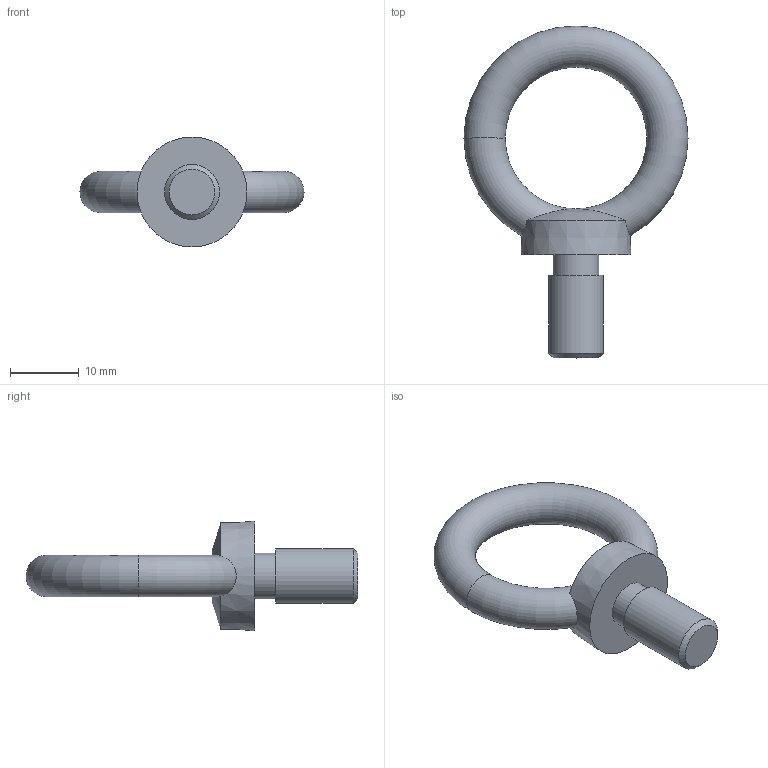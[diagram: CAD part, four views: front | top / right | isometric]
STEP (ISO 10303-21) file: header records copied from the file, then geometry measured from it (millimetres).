
FILE_DESCRIPTION(/* description */ (''),/* implementation_level */ '2;1');
FILE_NAME(/* name */ 'C:\Users\D\Documents\Inventor\各種小物\JIS\アイボルト\M8.stp',/* time_stamp */ '2022-04-27T11:43:29+09:00',/* author */ ('D'),/* organization */ (''),/* preprocessor_version */ 'ST-DEVELOPER v18',/* originating_system */ 'Autodesk Inventor 2020',/* authorisation */ '');
FILE_SCHEMA (('AUTOMOTIVE_DESIGN { 1 0 10303 214 3 1 1 }'));
Length unit declared in the file: millimetre
Products named in the file (1): M8
Bounding box: 32.6 x 48.3 x 16 mm (x, y, z)
Volume: 3844.3 mm3; surface area: 2311.9 mm2
Topology: 1 solids, 1 shells, 11 faces, 27 edges, 18 vertices
Faces by surface type: plane 3, cone 2, cylinder 2, sphere 2, torus 2
Full cylindrical faces by diameter (mm): 6.65 x1, 8 x1
Entity records: 457 total; most frequent: CARTESIAN_POINT 146, DIRECTION 60, ORIENTED_EDGE 54, AXIS2_PLACEMENT_3D 28, EDGE_CURVE 27, VERTEX_POINT 18, CIRCLE 16, EDGE_LOOP 13
